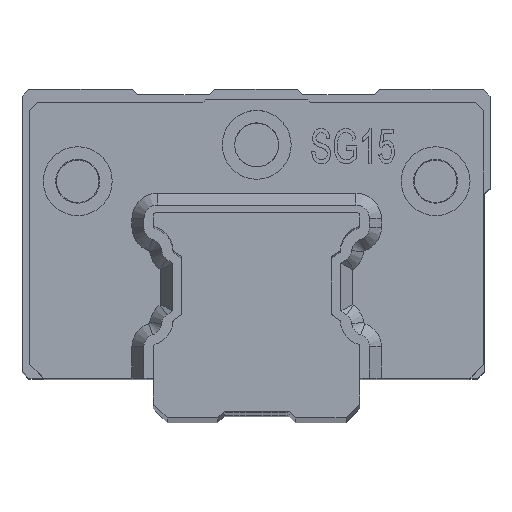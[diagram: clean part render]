
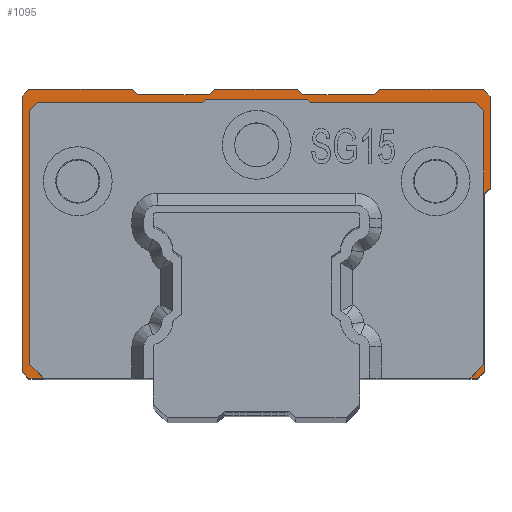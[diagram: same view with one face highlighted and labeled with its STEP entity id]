
A CAD part, top view. The second image highlights one B-rep face of the part: STEP entity #1095.
In plain terms, the highlighted planar face has unit normal (0, 0, 1).
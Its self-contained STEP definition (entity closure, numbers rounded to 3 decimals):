
#723=FACE_OUTER_BOUND('',#2123,.T.);
#1095=ADVANCED_FACE('',(#723),#1486,.F.);
#1486=PLANE('',#7896);
#2123=EDGE_LOOP('',(#2840,#2841,#2842,#2843,#2844,#2845,#2846,#2847,#2848,
#2849,#2850,#2851,#2852,#2853,#2854,#2855,#2856,#2857,#2858,#2859,#2860,
#2861,#2862,#2863,#2864,#2865,#2866,#2867,#2868,#2869));
#2840=ORIENTED_EDGE('',*,*,#5618,.F.);
#2841=ORIENTED_EDGE('',*,*,#5619,.T.);
#2842=ORIENTED_EDGE('',*,*,#5620,.T.);
#2843=ORIENTED_EDGE('',*,*,#5621,.T.);
#2844=ORIENTED_EDGE('',*,*,#5622,.F.);
#2845=ORIENTED_EDGE('',*,*,#5623,.T.);
#2846=ORIENTED_EDGE('',*,*,#5624,.T.);
#2847=ORIENTED_EDGE('',*,*,#5625,.T.);
#2848=ORIENTED_EDGE('',*,*,#5626,.F.);
#2849=ORIENTED_EDGE('',*,*,#5627,.T.);
#2850=ORIENTED_EDGE('',*,*,#5628,.T.);
#2851=ORIENTED_EDGE('',*,*,#5629,.T.);
#2852=ORIENTED_EDGE('',*,*,#5630,.F.);
#2853=ORIENTED_EDGE('',*,*,#5631,.T.);
#2854=ORIENTED_EDGE('',*,*,#5632,.T.);
#2855=ORIENTED_EDGE('',*,*,#5633,.T.);
#2856=ORIENTED_EDGE('',*,*,#5634,.T.);
#2857=ORIENTED_EDGE('',*,*,#5635,.T.);
#2858=ORIENTED_EDGE('',*,*,#5586,.T.);
#2859=ORIENTED_EDGE('',*,*,#5636,.T.);
#2860=ORIENTED_EDGE('',*,*,#5637,.T.);
#2861=ORIENTED_EDGE('',*,*,#5638,.T.);
#2862=ORIENTED_EDGE('',*,*,#5639,.T.);
#2863=ORIENTED_EDGE('',*,*,#5640,.T.);
#2864=ORIENTED_EDGE('',*,*,#5641,.T.);
#2865=ORIENTED_EDGE('',*,*,#5642,.T.);
#2866=ORIENTED_EDGE('',*,*,#5594,.T.);
#2867=ORIENTED_EDGE('',*,*,#5643,.T.);
#2868=ORIENTED_EDGE('',*,*,#5644,.T.);
#2869=ORIENTED_EDGE('',*,*,#5645,.T.);
#4807=VERTEX_POINT('',#10406);
#4808=VERTEX_POINT('',#10407);
#4815=VERTEX_POINT('',#10422);
#4816=VERTEX_POINT('',#10424);
#4839=VERTEX_POINT('',#10473);
#4840=VERTEX_POINT('',#10474);
#4841=VERTEX_POINT('',#10476);
#4842=VERTEX_POINT('',#10478);
#4843=VERTEX_POINT('',#10480);
#4844=VERTEX_POINT('',#10482);
#4845=VERTEX_POINT('',#10484);
#4846=VERTEX_POINT('',#10486);
#4847=VERTEX_POINT('',#10488);
#4848=VERTEX_POINT('',#10490);
#4849=VERTEX_POINT('',#10492);
#4850=VERTEX_POINT('',#10494);
#4851=VERTEX_POINT('',#10496);
#4852=VERTEX_POINT('',#10498);
#4853=VERTEX_POINT('',#10500);
#4854=VERTEX_POINT('',#10502);
#4855=VERTEX_POINT('',#10504);
#4856=VERTEX_POINT('',#10506);
#4857=VERTEX_POINT('',#10509);
#4858=VERTEX_POINT('',#10511);
#4859=VERTEX_POINT('',#10513);
#4860=VERTEX_POINT('',#10515);
#4861=VERTEX_POINT('',#10517);
#4862=VERTEX_POINT('',#10519);
#4863=VERTEX_POINT('',#10522);
#4864=VERTEX_POINT('',#10524);
#5586=EDGE_CURVE('',#4807,#4808,#6609,.T.);
#5594=EDGE_CURVE('',#4816,#4815,#6615,.T.);
#5618=EDGE_CURVE('',#4839,#4840,#6623,.T.);
#5619=EDGE_CURVE('',#4839,#4841,#6624,.T.);
#5620=EDGE_CURVE('',#4841,#4842,#6625,.T.);
#5621=EDGE_CURVE('',#4842,#4843,#6626,.T.);
#5622=EDGE_CURVE('',#4844,#4843,#6627,.T.);
#5623=EDGE_CURVE('',#4844,#4845,#6628,.T.);
#5624=EDGE_CURVE('',#4845,#4846,#6629,.T.);
#5625=EDGE_CURVE('',#4846,#4847,#6630,.T.);
#5626=EDGE_CURVE('',#4848,#4847,#6631,.T.);
#5627=EDGE_CURVE('',#4848,#4849,#6632,.T.);
#5628=EDGE_CURVE('',#4849,#4850,#6633,.T.);
#5629=EDGE_CURVE('',#4850,#4851,#6634,.T.);
#5630=EDGE_CURVE('',#4852,#4851,#6635,.T.);
#5631=EDGE_CURVE('',#4852,#4853,#6636,.T.);
#5632=EDGE_CURVE('',#4853,#4854,#6637,.T.);
#5633=EDGE_CURVE('',#4854,#4855,#6638,.T.);
#5634=EDGE_CURVE('',#4855,#4856,#6639,.T.);
#5635=EDGE_CURVE('',#4856,#4807,#6640,.T.);
#5636=EDGE_CURVE('',#4808,#4857,#6641,.T.);
#5637=EDGE_CURVE('',#4857,#4858,#6642,.T.);
#5638=EDGE_CURVE('',#4858,#4859,#6643,.T.);
#5639=EDGE_CURVE('',#4859,#4860,#6644,.T.);
#5640=EDGE_CURVE('',#4860,#4861,#6645,.T.);
#5641=EDGE_CURVE('',#4861,#4862,#6646,.T.);
#5642=EDGE_CURVE('',#4862,#4816,#6647,.T.);
#5643=EDGE_CURVE('',#4815,#4863,#6648,.T.);
#5644=EDGE_CURVE('',#4863,#4864,#6649,.T.);
#5645=EDGE_CURVE('',#4864,#4840,#6650,.T.);
#6609=LINE('',#10405,#7179);
#6615=LINE('',#10423,#7185);
#6623=LINE('',#10472,#7193);
#6624=LINE('',#10475,#7194);
#6625=LINE('',#10477,#7195);
#6626=LINE('',#10479,#7196);
#6627=LINE('',#10481,#7197);
#6628=LINE('',#10483,#7198);
#6629=LINE('',#10485,#7199);
#6630=LINE('',#10487,#7200);
#6631=LINE('',#10489,#7201);
#6632=LINE('',#10491,#7202);
#6633=LINE('',#10493,#7203);
#6634=LINE('',#10495,#7204);
#6635=LINE('',#10497,#7205);
#6636=LINE('',#10499,#7206);
#6637=LINE('',#10501,#7207);
#6638=LINE('',#10503,#7208);
#6639=LINE('',#10505,#7209);
#6640=LINE('',#10507,#7210);
#6641=LINE('',#10508,#7211);
#6642=LINE('',#10510,#7212);
#6643=LINE('',#10512,#7213);
#6644=LINE('',#10514,#7214);
#6645=LINE('',#10516,#7215);
#6646=LINE('',#10518,#7216);
#6647=LINE('',#10520,#7217);
#6648=LINE('',#10521,#7218);
#6649=LINE('',#10523,#7219);
#6650=LINE('',#10525,#7220);
#7179=VECTOR('',#8625,1.);
#7185=VECTOR('',#8637,1.);
#7193=VECTOR('',#8681,1.);
#7194=VECTOR('',#8682,1.);
#7195=VECTOR('',#8683,1.);
#7196=VECTOR('',#8684,1.);
#7197=VECTOR('',#8685,1.);
#7198=VECTOR('',#8686,1.);
#7199=VECTOR('',#8687,1.);
#7200=VECTOR('',#8688,1.);
#7201=VECTOR('',#8689,1.);
#7202=VECTOR('',#8690,1.);
#7203=VECTOR('',#8691,1.);
#7204=VECTOR('',#8692,1.);
#7205=VECTOR('',#8693,1.);
#7206=VECTOR('',#8694,1.);
#7207=VECTOR('',#8695,1.);
#7208=VECTOR('',#8696,1.);
#7209=VECTOR('',#8697,1.);
#7210=VECTOR('',#8698,1.);
#7211=VECTOR('',#8699,1.);
#7212=VECTOR('',#8700,1.);
#7213=VECTOR('',#8701,1.);
#7214=VECTOR('',#8702,1.);
#7215=VECTOR('',#8703,1.);
#7216=VECTOR('',#8704,1.);
#7217=VECTOR('',#8705,1.);
#7218=VECTOR('',#8706,1.);
#7219=VECTOR('',#8707,1.);
#7220=VECTOR('',#8708,1.);
#7896=AXIS2_PLACEMENT_3D('',#10526,#8709,#8710);
#8625=DIRECTION('',(-1.,0.,0.));
#8637=DIRECTION('',(-1.,0.,0.));
#8681=DIRECTION('',(-1.,0.,0.));
#8682=DIRECTION('',(-0.707,0.707,0.));
#8683=DIRECTION('',(0.,1.,0.));
#8684=DIRECTION('',(0.707,0.707,0.));
#8685=DIRECTION('',(-1.,0.,0.));
#8686=DIRECTION('',(0.707,0.707,0.));
#8687=DIRECTION('',(1.,0.,0.));
#8688=DIRECTION('',(0.707,-0.707,0.));
#8689=DIRECTION('',(-1.,0.,0.));
#8690=DIRECTION('',(0.707,-0.707,0.));
#8691=DIRECTION('',(0.,-1.,0.));
#8692=DIRECTION('',(-0.707,-0.707,0.));
#8693=DIRECTION('',(-1.,0.,0.));
#8694=DIRECTION('',(0.707,0.707,0.));
#8695=DIRECTION('',(0.,1.,0.));
#8696=DIRECTION('',(0.707,0.707,0.));
#8697=DIRECTION('',(0.,1.,0.));
#8698=DIRECTION('',(-0.707,0.707,0.));
#8699=DIRECTION('',(-0.707,-0.707,0.));
#8700=DIRECTION('',(-1.,0.,0.));
#8701=DIRECTION('',(-0.707,0.707,0.));
#8702=DIRECTION('',(-1.,0.,0.));
#8703=DIRECTION('',(-0.707,-0.707,0.));
#8704=DIRECTION('',(-1.,0.,0.));
#8705=DIRECTION('',(-0.707,0.707,0.));
#8706=DIRECTION('',(-0.707,-0.707,0.));
#8707=DIRECTION('',(0.,-1.,0.));
#8708=DIRECTION('',(0.707,-0.707,0.));
#8709=DIRECTION('',(0.,0.,-1.));
#8710=DIRECTION('',(1.,0.,0.));
#10405=CARTESIAN_POINT('',(12.105,17.599,224.699));
#10406=CARTESIAN_POINT('',(12.105,17.599,224.699));
#10407=CARTESIAN_POINT('',(4.605,17.599,224.699));
#10422=CARTESIAN_POINT('',(-20.895,17.599,224.699));
#10423=CARTESIAN_POINT('',(-13.395,17.599,224.699));
#10424=CARTESIAN_POINT('',(-13.395,17.599,224.699));
#10472=CARTESIAN_POINT('',(-20.395,-3.401,224.699));
#10473=CARTESIAN_POINT('',(-19.834,-3.401,224.699));
#10474=CARTESIAN_POINT('',(-20.895,-3.401,224.699));
#10475=CARTESIAN_POINT('',(-20.845,-2.389,224.699));
#10476=CARTESIAN_POINT('',(-20.845,-2.389,224.699));
#10477=CARTESIAN_POINT('',(-20.845,-3.772,224.699));
#10478=CARTESIAN_POINT('',(-20.845,16.011,224.699));
#10479=CARTESIAN_POINT('',(-20.245,16.611,224.699));
#10480=CARTESIAN_POINT('',(-20.245,16.611,224.699));
#10481=CARTESIAN_POINT('',(-15.145,16.611,224.699));
#10482=CARTESIAN_POINT('',(-8.252,16.611,224.699));
#10483=CARTESIAN_POINT('',(-7.699,17.164,224.699));
#10484=CARTESIAN_POINT('',(-8.052,16.811,224.699));
#10485=CARTESIAN_POINT('',(0.655,16.811,224.699));
#10486=CARTESIAN_POINT('',(-0.638,16.811,224.699));
#10487=CARTESIAN_POINT('',(-0.992,17.164,224.699));
#10488=CARTESIAN_POINT('',(-0.438,16.611,224.699));
#10489=CARTESIAN_POINT('',(6.455,16.611,224.699));
#10490=CARTESIAN_POINT('',(11.555,16.611,224.699));
#10491=CARTESIAN_POINT('',(11.555,16.611,224.699));
#10492=CARTESIAN_POINT('',(12.155,16.011,224.699));
#10493=CARTESIAN_POINT('',(12.155,-3.772,224.699));
#10494=CARTESIAN_POINT('',(12.155,-2.389,224.699));
#10495=CARTESIAN_POINT('',(12.155,-2.389,224.699));
#10496=CARTESIAN_POINT('',(11.143,-3.401,224.699));
#10497=CARTESIAN_POINT('',(-20.395,-3.401,224.699));
#10498=CARTESIAN_POINT('',(11.705,-3.401,224.699));
#10499=CARTESIAN_POINT('',(12.105,-3.001,224.699));
#10500=CARTESIAN_POINT('',(12.205,-2.901,224.699));
#10501=CARTESIAN_POINT('',(12.205,-2.901,224.699));
#10502=CARTESIAN_POINT('',(12.205,9.999,224.699));
#10503=CARTESIAN_POINT('',(12.205,9.999,224.699));
#10504=CARTESIAN_POINT('',(12.605,10.399,224.699));
#10505=CARTESIAN_POINT('',(12.605,10.399,224.699));
#10506=CARTESIAN_POINT('',(12.605,17.099,224.699));
#10507=CARTESIAN_POINT('',(12.605,17.099,224.699));
#10508=CARTESIAN_POINT('',(4.605,17.599,224.699));
#10509=CARTESIAN_POINT('',(4.205,17.199,224.699));
#10510=CARTESIAN_POINT('',(4.205,17.199,224.699));
#10511=CARTESIAN_POINT('',(-0.995,17.199,224.699));
#10512=CARTESIAN_POINT('',(-0.995,17.199,224.699));
#10513=CARTESIAN_POINT('',(-1.395,17.599,224.699));
#10514=CARTESIAN_POINT('',(-1.395,17.599,224.699));
#10515=CARTESIAN_POINT('',(-7.395,17.599,224.699));
#10516=CARTESIAN_POINT('',(-7.395,17.599,224.699));
#10517=CARTESIAN_POINT('',(-7.795,17.199,224.699));
#10518=CARTESIAN_POINT('',(-7.795,17.199,224.699));
#10519=CARTESIAN_POINT('',(-12.995,17.199,224.699));
#10520=CARTESIAN_POINT('',(-12.995,17.199,224.699));
#10521=CARTESIAN_POINT('',(-20.895,17.599,224.699));
#10522=CARTESIAN_POINT('',(-21.395,17.099,224.699));
#10523=CARTESIAN_POINT('',(-21.395,17.099,224.699));
#10524=CARTESIAN_POINT('',(-21.395,-2.901,224.699));
#10525=CARTESIAN_POINT('',(-21.395,-2.901,224.699));
#10526=CARTESIAN_POINT('',(14.305,-4.451,224.699));
